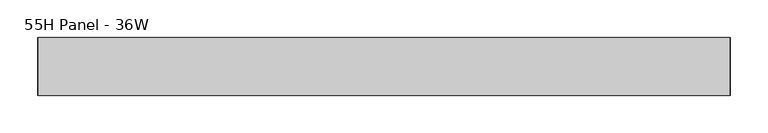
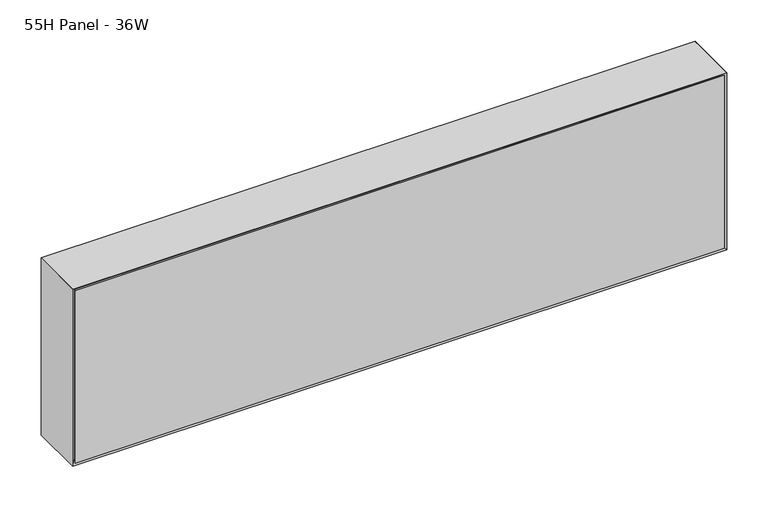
"""IFC4 building model written with IfcOpenShell, lengths in millimetres: furniture geometry, Steelcase - Montage - Frame - 10H - Enhanced Standard - Single Stack-On : 55H Panel - 36W."""

from ifc_helpers import new_model, si_unit, frame, origin, place, context, project, spatial, polyline, outline, extrude, faceted_brep, source, transform, mapped, element, save


def furniture_55h_panel_36w_6225ec53(model_context):
    return source(origin(), model_context, "Body", "SolidModel", [
        faceted_brep([(904.8750027, 31.7500194, 1651.0127415), (9.5250028, 31.7500194, 1651.0127415), (9.5250028, 31.7500194, 1408.1125), (904.8750027, 31.7500194, 1408.1125), (911.225, 38.1000194, 1657.3627415), (911.225, 38.1000194, 1401.7625), (3.175, 38.1000194, 1401.7625), (3.175, 38.1000194, 1657.3627415)], [[[0, 1, 2, 3]], [[4, 5, 6, 7]], [[4, 0, 3, 5]], [[5, 3, 2, 6]], [[6, 2, 1, 7]], [[7, 1, 0, 4]]]),
        faceted_brep([(904.8750027, -31.7500194, 1651.0127415), (904.8750027, -31.7500194, 1408.1125), (9.5250028, -31.7500194, 1408.1125), (9.5250028, -31.7500194, 1651.0127415), (911.225, -38.1000194, 1657.3627415), (3.175, -38.1000194, 1657.3627415), (3.175, -38.1000194, 1401.7625), (911.225, -38.1000194, 1401.7625)], [[[0, 1, 2, 3]], [[4, 5, 6, 7]], [[4, 7, 1, 0]], [[7, 6, 2, 1]], [[6, 5, 3, 2]], [[5, 4, 0, 3]]]),
        faceted_brep([(914.4, -38.1000015, 1398.5875), (914.4, 38.1000015, 1398.5875), (914.4, 38.1000015, 1660.5377415), (914.4, -38.1000106, 1660.5377414), (0.0, 38.1000015, 1398.5875), (0.0, -38.1000015, 1398.5875), (0.0, -38.1000015, 1660.5377415), (0.0, 38.1000015, 1660.5377415), (6.3500484, 31.749953, 1404.9375484), (908.0499879, 31.749953, 1404.9375484), (6.35, -31.749953, 1404.9375484), (908.0499879, -31.749953, 1404.9375484), (6.3500169, 31.7499846, 1654.1877245), (6.3500012, -31.7500003, 1654.187693), (908.0499879, -31.7499973, 1654.187693), (908.0499879, 31.7499885, 1654.1877293)], [[[0, 1, 2, 3]], [[4, 5, 6, 7]], [[1, 0, 5, 4]], [[1, 4, 8, 9]], [[9, 8, 10, 11]], [[5, 0, 11, 10]], [[4, 7, 12, 8]], [[6, 5, 10, 13]], [[10, 8, 12, 13]], [[9, 11, 14, 15]], [[0, 3, 14, 11]], [[2, 1, 9, 15]], [[3, 2, 15, 14]], [[7, 6, 13, 12]]]),
        faceted_brep([(914.4, -38.1000015, 1660.5377415), (0.0, -38.1000015, 1660.5377415), (6.3500484, -31.749953, 1654.187693), (908.0499516, -31.749953, 1654.187693), (6.3500484, 31.749953, 1654.187693), (908.0499516, 31.749953, 1654.187693), (0.0, 38.1000015, 1660.5377415), (914.4, 38.1000015, 1660.5377415)], [[[0, 1, 2, 3]], [[3, 2, 4, 5]], [[6, 7, 5, 4]], [[1, 0, 7, 6]], [[2, 1, 6, 4]], [[0, 3, 5, 7]]]),
        extrude(outline(polyline([(908.0499879, 31.7500016), (908.0499879, -31.7499985), (6.35, -31.7499985), (6.35, 31.7500016), (908.0499879, 31.7500016)])), frame((0.0, 0.0, 1404.9327145), z_axis=(0.0, 0.0, 1.0), x_axis=(1.0, 0.0, 0.0)), (0.0, 0.0, 1.0), 249.2549785),
    ])


if __name__ == "__main__":
    model = new_model("IFC4")
    model_context = context("Model", 3, world=origin())
    ifc_project = project(units=[si_unit("LENGTHUNIT", "METRE", prefix="MILLI")], contexts=[model_context])
    site = spatial("IfcSite", under=ifc_project)
    building = spatial("IfcBuilding", under=site)
    placement = place(None, origin())
    furniture_55h_panel_36w_shape = furniture_55h_panel_36w_6225ec53(model_context)
    element("IfcFurniture", 1, ObjectType="Steelcase - Montage - Frame - 10H - Enhanced Standard - Single Stack-On : 55H Panel - 36W", at=placement, inside=building, context=model_context, shape_type="MappedRepresentation", body=[
        mapped(furniture_55h_panel_36w_shape, transform((0.0, 0.0, 0.0), x_axis=(1.0, 0.0, 0.0), y_axis=(0.0, 1.0, 0.0), z_axis=(0.0, 0.0, 1.0))),
    ])
    save(model, "model.ifc")
